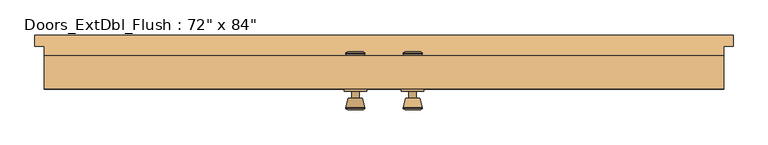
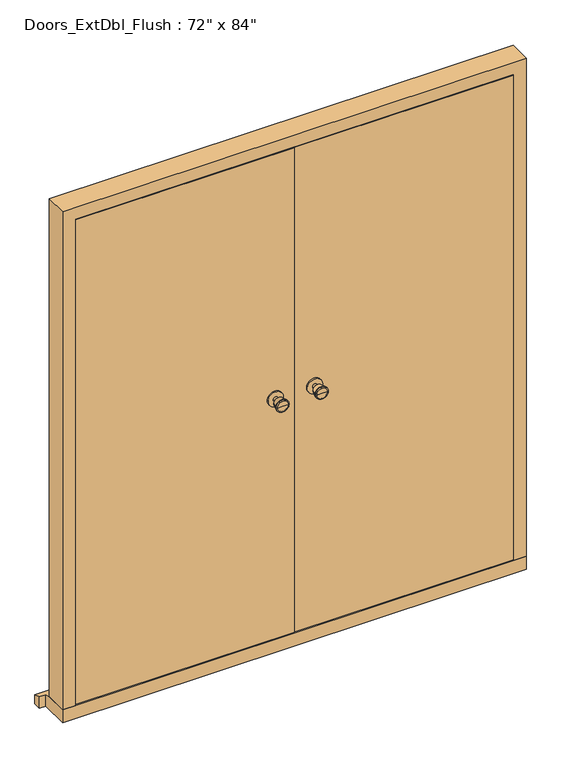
"""IFC4 building model written with IfcOpenShell, lengths in millimetres: door geometry."""

from ifc_helpers import new_model, si_unit, point, frame, frame_2d, origin, place, context, project, spatial, polyline, circle_curve, trimmed, segment, composite_curve, outline, extrude, faceted_brep, source, transform, mapped, element, save
from ifc_brep_helpers import plane_surface, cylinder_surface, revolved_surface, advanced_brep


def door_a06c315a(model_context):
    return source(origin(), model_context, "Body", "SolidModel", [
        advanced_brep(
        [(-76.5, 67.5, 1050.0), (-66.5, 67.5, 1050.0), (-86.5, 67.5, 1050.0), (-96.9758676, 18.5, 1050.0), (-56.0241324, 18.5, 1050.0), (-76.5, 18.5, 1050.0), (-101.5, 20.3278681, 1050.0), (-51.5, 20.3278681, 1050.0), (-101.5, 23.7915463, 1050.0), (-51.5, 23.7915463, 1050.0), (-95.136236, 48.5, 1050.0), (-57.863764, 48.5, 1050.0), (-86.5, 48.5, 1050.0), (-66.5, 48.5, 1050.0)],
        [
            (0, 1),
            (1, 2, circle_curve(frame((-76.5, 67.5, 1050.0), z_axis=(0.0, 1.0, 0.0), x_axis=(1.0, 0.0, 0.0)), 10.0)),
            (2, 0),
            (2, 1, circle_curve(frame((-76.5, 67.5, 1050.0), z_axis=(0.0, 1.0, 0.0), x_axis=(1.0, 0.0, 0.0)), 10.0)),
            (3, 4, circle_curve(frame((-76.5, 18.5, 1050.0), z_axis=(0.0, -1.0, 0.0), x_axis=(1.0, 0.0, 0.0)), 20.4758676)),
            (4, 5),
            (5, 3),
            (4, 3, circle_curve(frame((-76.5, 18.5, 1050.0), z_axis=(0.0, -1.0, 0.0), x_axis=(1.0, 0.0, 0.0)), 20.4758676)),
            (6, 7, circle_curve(frame((-76.5, 20.3278681, 1050.0), z_axis=(0.0, -1.0, 0.0), x_axis=(1.0, 0.0, 0.0)), 25.0)),
            (7, 4),
            (3, 6),
            (7, 6, circle_curve(frame((-76.5, 20.3278681, 1050.0), z_axis=(0.0, -1.0, 0.0), x_axis=(1.0, 0.0, 0.0)), 25.0)),
            (8, 9, circle_curve(frame((-76.5, 23.7915463, 1050.0), z_axis=(0.0, -1.0, 0.0), x_axis=(1.0, 0.0, 0.0)), 25.0)),
            (9, 7),
            (6, 8),
            (9, 8, circle_curve(frame((-76.5, 23.7915463, 1050.0), z_axis=(0.0, -1.0, 0.0), x_axis=(1.0, 0.0, 0.0)), 25.0)),
            (10, 11, circle_curve(frame((-76.5, 48.5, 1050.0), z_axis=(0.0, -1.0, 0.0), x_axis=(1.0, 0.0, 0.0)), 18.636236)),
            (11, 9),
            (8, 10),
            (11, 10, circle_curve(frame((-76.5, 48.5, 1050.0), z_axis=(0.0, -1.0, 0.0), x_axis=(1.0, 0.0, 0.0)), 18.636236)),
            (12, 13, circle_curve(frame((-76.5, 48.5, 1050.0), z_axis=(0.0, -1.0, 0.0), x_axis=(1.0, 0.0, 0.0)), 10.0)),
            (13, 11),
            (10, 12),
            (13, 12, circle_curve(frame((-76.5, 48.5, 1050.0), z_axis=(0.0, -1.0, 0.0), x_axis=(1.0, 0.0, 0.0)), 10.0)),
            (1, 13),
            (12, 2),
        ],
        [
            plane_surface(frame((-76.5, 67.5, 1050.0), z_axis=(0.0, 1.0, 0.0), x_axis=(1.0, 0.0, 0.0))),
            plane_surface(frame((-76.5, 18.5, 1050.0), z_axis=(0.0, -1.0, 0.0), x_axis=(1.0, 0.0, 0.0))),
            revolved_surface(polyline([(-56.0241324, 18.5, 1050.0), (-51.5, 20.3278681, 1050.0)]), (-76.5, 67.5, 1050.0), (0.0, 1.0, 0.0)),
            cylinder_surface(frame((-76.5, 67.5, 1050.0), z_axis=(0.0, 1.0, 0.0), x_axis=(1.0, 0.0, 0.0)), 25.0),
            revolved_surface(polyline([(-51.5, 23.7915463, 1050.0), (-57.863764, 48.5, 1050.0)]), (-76.5, 67.5, 1050.0), (0.0, 1.0, 0.0)),
            plane_surface(frame((-76.5, 48.5, 1050.0), z_axis=(0.0, 1.0, 0.0), x_axis=(1.0, 0.0, 0.0))),
            cylinder_surface(frame((-76.5, 67.5, 1050.0), z_axis=(0.0, 1.0, 0.0), x_axis=(1.0, 0.0, 0.0)), 10.0),
        ],
        [
            (0, [[1, 2, 3]]),
            (0, [[-3, 4, -1]]),
            (1, [[5, 6, 7]]),
            (1, [[8, -7, -6]]),
            (2, [[9, 10, -5, 11]]),
            (2, [[12, -11, -8, -10]]),
            (3, [[13, 14, -9, 15]]),
            (3, [[16, -15, -12, -14]]),
            (4, [[17, 18, -13, 19]]),
            (4, [[20, -19, -16, -18]]),
            (5, [[21, 22, -17, 23]]),
            (5, [[24, -23, -20, -22]]),
            (6, [[-2, 25, -21, 26]]),
            (6, [[-4, -26, -24, -25]]),
        ],
    ),
        extrude(outline(composite_curve([segment(trimmed(circle_curve(frame_2d((1050.0, -76.5)), 30.0), [point((1050.0, -46.5))], [point((1050.0, -106.5))], False, "CARTESIAN"), True, "CONTINUOUS"), segment(trimmed(circle_curve(frame_2d((1050.0, -76.5)), 30.0), [point((1050.0, -106.5))], [point((1050.0, -46.5))], False, "CARTESIAN"), True, "CONTINUOUS")], self_intersect=False)), frame((0.0, 67.5, 0.0), z_axis=(0.0, 1.0, 0.0), x_axis=(0.0, 0.0, 1.0)), (0.0, 0.0, 1.0), 6.0),
        advanced_brep(
        [(-76.5, 123.5, 1050.0), (-86.5, 123.5, 1050.0), (-66.5, 123.5, 1050.0), (-96.9758676, 172.5, 1050.0), (-76.5, 172.5, 1050.0), (-56.0241324, 172.5, 1050.0), (-101.5, 170.6721319, 1050.0), (-51.5, 170.6721319, 1050.0), (-101.5, 167.2084537, 1050.0), (-51.5, 167.2084537, 1050.0), (-95.136236, 142.5, 1050.0), (-57.863764, 142.5, 1050.0), (-86.5, 142.5, 1050.0), (-66.5, 142.5, 1050.0)],
        [
            (0, 1),
            (1, 2, circle_curve(frame((-76.5, 123.5, 1050.0), z_axis=(0.0, -1.0, 0.0), x_axis=(1.0, 0.0, 0.0)), 10.0)),
            (2, 0),
            (2, 1, circle_curve(frame((-76.5, 123.5, 1050.0), z_axis=(0.0, -1.0, 0.0), x_axis=(1.0, 0.0, 0.0)), 10.0)),
            (3, 4),
            (4, 5),
            (5, 3, circle_curve(frame((-76.5, 172.5, 1050.0), z_axis=(0.0, 1.0, 0.0), x_axis=(1.0, 0.0, 0.0)), 20.4758676)),
            (3, 5, circle_curve(frame((-76.5, 172.5, 1050.0), z_axis=(0.0, 1.0, 0.0), x_axis=(1.0, 0.0, 0.0)), 20.4758676)),
            (6, 3),
            (5, 7),
            (7, 6, circle_curve(frame((-76.5, 170.6721319, 1050.0), z_axis=(0.0, 1.0, 0.0), x_axis=(1.0, 0.0, 0.0)), 25.0)),
            (6, 7, circle_curve(frame((-76.5, 170.6721319, 1050.0), z_axis=(0.0, 1.0, 0.0), x_axis=(1.0, 0.0, 0.0)), 25.0)),
            (8, 6),
            (7, 9),
            (9, 8, circle_curve(frame((-76.5, 167.2084537, 1050.0), z_axis=(0.0, 1.0, 0.0), x_axis=(1.0, 0.0, 0.0)), 25.0)),
            (8, 9, circle_curve(frame((-76.5, 167.2084537, 1050.0), z_axis=(0.0, 1.0, 0.0), x_axis=(1.0, 0.0, 0.0)), 25.0)),
            (10, 8),
            (9, 11),
            (11, 10, circle_curve(frame((-76.5, 142.5, 1050.0), z_axis=(0.0, 1.0, 0.0), x_axis=(1.0, 0.0, 0.0)), 18.636236)),
            (10, 11, circle_curve(frame((-76.5, 142.5, 1050.0), z_axis=(0.0, 1.0, 0.0), x_axis=(1.0, 0.0, 0.0)), 18.636236)),
            (12, 10),
            (11, 13),
            (13, 12, circle_curve(frame((-76.5, 142.5, 1050.0), z_axis=(0.0, 1.0, 0.0), x_axis=(1.0, 0.0, 0.0)), 10.0)),
            (12, 13, circle_curve(frame((-76.5, 142.5, 1050.0), z_axis=(0.0, 1.0, 0.0), x_axis=(1.0, 0.0, 0.0)), 10.0)),
            (1, 12),
            (13, 2),
        ],
        [
            plane_surface(frame((-76.5, 123.5, 1050.0), z_axis=(0.0, -1.0, 0.0), x_axis=(1.0, 0.0, 0.0))),
            plane_surface(frame((-76.5, 172.5, 1050.0), z_axis=(0.0, 1.0, 0.0), x_axis=(1.0, 0.0, 0.0))),
            revolved_surface(polyline([(-56.0241324, 172.5, 1050.0), (-51.5, 170.6721319, 1050.0)]), (-76.5, 123.5, 1050.0), (0.0, -1.0, 0.0)),
            cylinder_surface(frame((-76.5, 123.5, 1050.0), z_axis=(0.0, -1.0, 0.0), x_axis=(1.0, 0.0, 0.0)), 25.0),
            revolved_surface(polyline([(-51.5, 167.2084537, 1050.0), (-57.863764, 142.5, 1050.0)]), (-76.5, 123.5, 1050.0), (0.0, -1.0, 0.0)),
            plane_surface(frame((-76.5, 142.5, 1050.0), z_axis=(0.0, -1.0, 0.0), x_axis=(1.0, 0.0, 0.0))),
            cylinder_surface(frame((-76.5, 123.5, 1050.0), z_axis=(0.0, -1.0, 0.0), x_axis=(1.0, 0.0, 0.0)), 10.0),
        ],
        [
            (0, [[1, 2, 3]]),
            (0, [[-3, 4, -1]]),
            (1, [[5, 6, 7]]),
            (1, [[-6, -5, 8]]),
            (2, [[9, -7, 10, 11]]),
            (2, [[-10, -8, -9, 12]]),
            (3, [[13, -11, 14, 15]]),
            (3, [[-14, -12, -13, 16]]),
            (4, [[17, -15, 18, 19]]),
            (4, [[-18, -16, -17, 20]]),
            (5, [[21, -19, 22, 23]]),
            (5, [[-22, -20, -21, 24]]),
            (6, [[25, -23, 26, -2]]),
            (6, [[-26, -24, -25, -4]]),
        ],
    ),
        extrude(outline(composite_curve([segment(trimmed(circle_curve(frame_2d((1050.0, -76.5)), 30.0), [point((1050.0, -46.5))], [point((1050.0, -106.5))], False, "CARTESIAN"), True, "CONTINUOUS"), segment(trimmed(circle_curve(frame_2d((1050.0, -76.5)), 30.0), [point((1050.0, -106.5))], [point((1050.0, -46.5))], False, "CARTESIAN"), True, "CONTINUOUS")], self_intersect=False)), frame((0.0, 117.5, 0.0), z_axis=(0.0, 1.0, 0.0), x_axis=(0.0, 0.0, 1.0)), (0.0, 0.0, 1.0), 6.0),
        advanced_brep(
        [(76.5, 67.5, 1050.0), (86.5, 67.5, 1050.0), (66.5, 67.5, 1050.0), (96.9758676, 18.5, 1050.0), (76.5, 18.5, 1050.0), (56.0241324, 18.5, 1050.0), (101.5, 20.3278681, 1050.0), (51.5, 20.3278681, 1050.0), (101.5, 23.7915463, 1050.0), (51.5, 23.7915463, 1050.0), (95.136236, 48.5, 1050.0), (57.863764, 48.5, 1050.0), (86.5, 48.5, 1050.0), (66.5, 48.5, 1050.0)],
        [
            (0, 1),
            (1, 2, circle_curve(frame((76.5, 67.5, 1050.0), z_axis=(0.0, 1.0, 0.0), x_axis=(-1.0, 0.0, 0.0)), 10.0)),
            (2, 0),
            (2, 1, circle_curve(frame((76.5, 67.5, 1050.0), z_axis=(0.0, 1.0, 0.0), x_axis=(-1.0, 0.0, 0.0)), 10.0)),
            (3, 4),
            (4, 5),
            (5, 3, circle_curve(frame((76.5, 18.5, 1050.0), z_axis=(0.0, -1.0, 0.0), x_axis=(-1.0, 0.0, 0.0)), 20.4758676)),
            (3, 5, circle_curve(frame((76.5, 18.5, 1050.0), z_axis=(0.0, -1.0, 0.0), x_axis=(-1.0, 0.0, 0.0)), 20.4758676)),
            (6, 3),
            (5, 7),
            (7, 6, circle_curve(frame((76.5, 20.3278681, 1050.0), z_axis=(0.0, -1.0, 0.0), x_axis=(-1.0, 0.0, 0.0)), 25.0)),
            (6, 7, circle_curve(frame((76.5, 20.3278681, 1050.0), z_axis=(0.0, -1.0, 0.0), x_axis=(-1.0, 0.0, 0.0)), 25.0)),
            (8, 6),
            (7, 9),
            (9, 8, circle_curve(frame((76.5, 23.7915463, 1050.0), z_axis=(0.0, -1.0, 0.0), x_axis=(-1.0, 0.0, 0.0)), 25.0)),
            (8, 9, circle_curve(frame((76.5, 23.7915463, 1050.0), z_axis=(0.0, -1.0, 0.0), x_axis=(-1.0, 0.0, 0.0)), 25.0)),
            (10, 8),
            (9, 11),
            (11, 10, circle_curve(frame((76.5, 48.5, 1050.0), z_axis=(0.0, -1.0, 0.0), x_axis=(-1.0, 0.0, 0.0)), 18.636236)),
            (10, 11, circle_curve(frame((76.5, 48.5, 1050.0), z_axis=(0.0, -1.0, 0.0), x_axis=(-1.0, 0.0, 0.0)), 18.636236)),
            (12, 10),
            (11, 13),
            (13, 12, circle_curve(frame((76.5, 48.5, 1050.0), z_axis=(0.0, -1.0, 0.0), x_axis=(-1.0, 0.0, 0.0)), 10.0)),
            (12, 13, circle_curve(frame((76.5, 48.5, 1050.0), z_axis=(0.0, -1.0, 0.0), x_axis=(-1.0, 0.0, 0.0)), 10.0)),
            (1, 12),
            (13, 2),
        ],
        [
            plane_surface(frame((76.5, 67.5, 1050.0), z_axis=(0.0, 1.0, 0.0), x_axis=(-1.0, 0.0, 0.0))),
            plane_surface(frame((76.5, 18.5, 1050.0), z_axis=(0.0, -1.0, 0.0), x_axis=(-1.0, 0.0, 0.0))),
            revolved_surface(polyline([(56.0241324, 18.5, 1050.0), (51.5, 20.3278681, 1050.0)]), (76.5, 67.5, 1050.0), (0.0, 1.0, 0.0)),
            cylinder_surface(frame((76.5, 67.5, 1050.0), z_axis=(0.0, 1.0, 0.0), x_axis=(-1.0, 0.0, 0.0)), 25.0),
            revolved_surface(polyline([(51.5, 23.7915463, 1050.0), (57.863764, 48.5, 1050.0)]), (76.5, 67.5, 1050.0), (0.0, 1.0, 0.0)),
            plane_surface(frame((76.5, 48.5, 1050.0), z_axis=(0.0, 1.0, 0.0), x_axis=(-1.0, 0.0, 0.0))),
            cylinder_surface(frame((76.5, 67.5, 1050.0), z_axis=(0.0, 1.0, 0.0), x_axis=(-1.0, 0.0, 0.0)), 10.0),
        ],
        [
            (0, [[1, 2, 3]]),
            (0, [[-3, 4, -1]]),
            (1, [[5, 6, 7]]),
            (1, [[-6, -5, 8]]),
            (2, [[9, -7, 10, 11]]),
            (2, [[-10, -8, -9, 12]]),
            (3, [[13, -11, 14, 15]]),
            (3, [[-14, -12, -13, 16]]),
            (4, [[17, -15, 18, 19]]),
            (4, [[-18, -16, -17, 20]]),
            (5, [[21, -19, 22, 23]]),
            (5, [[-22, -20, -21, 24]]),
            (6, [[25, -23, 26, -2]]),
            (6, [[-26, -24, -25, -4]]),
        ],
    ),
        extrude(outline(composite_curve([segment(trimmed(circle_curve(frame_2d((1050.0, 76.5)), 30.0), [point((1050.0, 46.5))], [point((1050.0, 106.5))], False, "CARTESIAN"), True, "CONTINUOUS"), segment(trimmed(circle_curve(frame_2d((1050.0, 76.5)), 30.0), [point((1050.0, 106.5))], [point((1050.0, 46.5))], False, "CARTESIAN"), True, "CONTINUOUS")], self_intersect=False)), frame((0.0, 67.5, 0.0), z_axis=(0.0, 1.0, 0.0), x_axis=(0.0, 0.0, 1.0)), (0.0, 0.0, 1.0), 6.0),
        advanced_brep(
        [(76.5, 123.5, 1050.0), (66.5, 123.5, 1050.0), (86.5, 123.5, 1050.0), (96.9758676, 172.5, 1050.0), (56.0241324, 172.5, 1050.0), (76.5, 172.5, 1050.0), (101.5, 170.6721319, 1050.0), (51.5, 170.6721319, 1050.0), (101.5, 167.2084537, 1050.0), (51.5, 167.2084537, 1050.0), (95.136236, 142.5, 1050.0), (57.863764, 142.5, 1050.0), (86.5, 142.5, 1050.0), (66.5, 142.5, 1050.0)],
        [
            (0, 1),
            (1, 2, circle_curve(frame((76.5, 123.5, 1050.0), z_axis=(0.0, -1.0, 0.0), x_axis=(-1.0, 0.0, 0.0)), 10.0)),
            (2, 0),
            (2, 1, circle_curve(frame((76.5, 123.5, 1050.0), z_axis=(0.0, -1.0, 0.0), x_axis=(-1.0, 0.0, 0.0)), 10.0)),
            (3, 4, circle_curve(frame((76.5, 172.5, 1050.0), z_axis=(0.0, 1.0, 0.0), x_axis=(-1.0, 0.0, 0.0)), 20.4758676)),
            (4, 5),
            (5, 3),
            (4, 3, circle_curve(frame((76.5, 172.5, 1050.0), z_axis=(0.0, 1.0, 0.0), x_axis=(-1.0, 0.0, 0.0)), 20.4758676)),
            (6, 7, circle_curve(frame((76.5, 170.6721319, 1050.0), z_axis=(0.0, 1.0, 0.0), x_axis=(-1.0, 0.0, 0.0)), 25.0)),
            (7, 4),
            (3, 6),
            (7, 6, circle_curve(frame((76.5, 170.6721319, 1050.0), z_axis=(0.0, 1.0, 0.0), x_axis=(-1.0, 0.0, 0.0)), 25.0)),
            (8, 9, circle_curve(frame((76.5, 167.2084537, 1050.0), z_axis=(0.0, 1.0, 0.0), x_axis=(-1.0, 0.0, 0.0)), 25.0)),
            (9, 7),
            (6, 8),
            (9, 8, circle_curve(frame((76.5, 167.2084537, 1050.0), z_axis=(0.0, 1.0, 0.0), x_axis=(-1.0, 0.0, 0.0)), 25.0)),
            (10, 11, circle_curve(frame((76.5, 142.5, 1050.0), z_axis=(0.0, 1.0, 0.0), x_axis=(-1.0, 0.0, 0.0)), 18.636236)),
            (11, 9),
            (8, 10),
            (11, 10, circle_curve(frame((76.5, 142.5, 1050.0), z_axis=(0.0, 1.0, 0.0), x_axis=(-1.0, 0.0, 0.0)), 18.636236)),
            (12, 13, circle_curve(frame((76.5, 142.5, 1050.0), z_axis=(0.0, 1.0, 0.0), x_axis=(-1.0, 0.0, 0.0)), 10.0)),
            (13, 11),
            (10, 12),
            (13, 12, circle_curve(frame((76.5, 142.5, 1050.0), z_axis=(0.0, 1.0, 0.0), x_axis=(-1.0, 0.0, 0.0)), 10.0)),
            (1, 13),
            (12, 2),
        ],
        [
            plane_surface(frame((76.5, 123.5, 1050.0), z_axis=(0.0, -1.0, 0.0), x_axis=(-1.0, 0.0, 0.0))),
            plane_surface(frame((76.5, 172.5, 1050.0), z_axis=(0.0, 1.0, 0.0), x_axis=(-1.0, 0.0, 0.0))),
            revolved_surface(polyline([(56.0241324, 172.5, 1050.0), (51.5, 170.6721319, 1050.0)]), (76.5, 123.5, 1050.0), (0.0, -1.0, 0.0)),
            cylinder_surface(frame((76.5, 123.5, 1050.0), z_axis=(0.0, -1.0, 0.0), x_axis=(-1.0, 0.0, 0.0)), 25.0),
            revolved_surface(polyline([(51.5, 167.2084537, 1050.0), (57.863764, 142.5, 1050.0)]), (76.5, 123.5, 1050.0), (0.0, -1.0, 0.0)),
            plane_surface(frame((76.5, 142.5, 1050.0), z_axis=(0.0, -1.0, 0.0), x_axis=(-1.0, 0.0, 0.0))),
            cylinder_surface(frame((76.5, 123.5, 1050.0), z_axis=(0.0, -1.0, 0.0), x_axis=(-1.0, 0.0, 0.0)), 10.0),
        ],
        [
            (0, [[1, 2, 3]]),
            (0, [[-3, 4, -1]]),
            (1, [[5, 6, 7]]),
            (1, [[8, -7, -6]]),
            (2, [[9, 10, -5, 11]]),
            (2, [[12, -11, -8, -10]]),
            (3, [[13, 14, -9, 15]]),
            (3, [[16, -15, -12, -14]]),
            (4, [[17, 18, -13, 19]]),
            (4, [[20, -19, -16, -18]]),
            (5, [[21, 22, -17, 23]]),
            (5, [[24, -23, -20, -22]]),
            (6, [[-2, 25, -21, 26]]),
            (6, [[-4, -26, -24, -25]]),
        ],
    ),
        extrude(outline(composite_curve([segment(trimmed(circle_curve(frame_2d((1050.0, 76.5)), 30.0), [point((1050.0, 46.5))], [point((1050.0, 106.5))], False, "CARTESIAN"), True, "CONTINUOUS"), segment(trimmed(circle_curve(frame_2d((1050.0, 76.5)), 30.0), [point((1050.0, 106.5))], [point((1050.0, 46.5))], False, "CARTESIAN"), True, "CONTINUOUS")], self_intersect=False)), frame((0.0, 117.5, 0.0), z_axis=(0.0, 1.0, 0.0), x_axis=(0.0, 0.0, 1.0)), (0.0, 0.0, 1.0), 6.0),
        faceted_brep([(834.5, 162.5, 54.5), (905.0, 162.5, 54.5), (905.0, 73.5, 54.5), (856.5, 73.5, 54.5), (856.5, 120.5, 54.5), (834.5, 120.5, 54.5), (834.5, 162.5, 2039.5), (-834.5, 162.5, 2039.5), (-834.5, 162.5, 54.5), (-905.0, 162.5, 54.5), (-905.0, 162.5, 2110.0), (905.0, 162.5, 2110.0), (905.0, 73.5, 2110.0), (-905.0, 73.5, 2110.0), (-905.0, 73.5, 54.5), (-856.5, 73.5, 54.5), (-856.5, 73.5, 2061.5), (856.5, 73.5, 2061.5), (856.5, 120.5, 2061.5), (-856.5, 120.5, 2061.5), (-856.5, 120.5, 54.5), (-834.5, 120.5, 54.5), (-834.5, 120.5, 2039.5), (834.5, 120.5, 2039.5)], [[[0, 1, 2, 3, 4, 5]], [[1, 0, 6, 7, 8, 9, 10, 11]], [[2, 1, 11, 12]], [[3, 2, 12, 13, 14, 15, 16, 17]], [[4, 3, 17, 18]], [[5, 4, 18, 19, 20, 21, 22, 23]], [[0, 5, 23, 6]], [[12, 11, 10, 13]], [[18, 17, 16, 19]], [[6, 23, 22, 7]], [[8, 21, 20, 15, 14, 9]], [[13, 10, 9, 14]], [[19, 16, 15, 20]], [[7, 22, 21, 8]]]),
        faceted_brep([(930.0, 217.5, 0.0), (930.0, 217.5, 38.5947221), (930.0, 187.5, 47.2703282), (930.0, 187.5, 0.0), (-930.0, 217.5, 38.5947221), (-930.0, 217.5, 0.0), (-930.0, 187.5, 0.0), (-930.0, 187.5, 47.2703282), (905.0, 187.5, 0.0), (905.0, 73.5, 0.0), (-905.0, 73.5, 0.0), (-905.0, 187.5, 0.0), (-905.0, 187.5, 47.2703282), (-905.0, 162.5, 54.5), (905.0, 162.5, 54.5), (905.0, 187.5, 47.2703282), (-905.0, 73.5, 54.5), (905.0, 73.5, 54.5)], [[[0, 1, 2, 3]], [[4, 5, 6, 7]], [[5, 0, 3, 8, 9, 10, 11, 6]], [[1, 0, 5, 4]], [[1, 4, 7, 12, 13, 14, 15, 2]], [[13, 16, 17, 14]], [[16, 10, 9, 17]], [[12, 11, 10, 16, 13]], [[11, 12, 7, 6]], [[8, 15, 14, 17, 9]], [[15, 8, 3, 2]]]),
        extrude(outline(polyline([(853.5, 73.5), (1.5, 73.5), (1.5, 117.5), (853.5, 117.5), (853.5, 73.5)])), frame((0.0, 0.0, 58.5), z_axis=(0.0, 0.0, 1.0), x_axis=(1.0, 0.0, 0.0)), (0.0, 0.0, 1.0), 2000.0),
        extrude(outline(polyline([(-1.5, 73.5), (-853.5, 73.5), (-853.5, 117.5), (-1.5, 117.5), (-1.5, 73.5)])), frame((0.0, 0.0, 58.5), z_axis=(0.0, 0.0, 1.0), x_axis=(1.0, 0.0, 0.0)), (0.0, 0.0, 1.0), 2000.0),
    ])


if __name__ == "__main__":
    model = new_model("IFC4")
    model_context = context("Model", 3, world=origin())
    ifc_project = project(units=[si_unit("LENGTHUNIT", "METRE", prefix="MILLI")], contexts=[model_context])
    site = spatial("IfcSite", under=ifc_project)
    building = spatial("IfcBuilding", under=site)
    placement = place(None, origin())
    door_shape = door_a06c315a(model_context)
    element("IfcDoor", 1, ObjectType="Doors_ExtDbl_Flush : 72\" x 84\"", at=placement, inside=building, context=model_context, shape_type="MappedRepresentation", body=[
        mapped(door_shape, transform((0.0, 0.0, 0.0), x_axis=(1.0, 0.0, 0.0), y_axis=(0.0, 1.0, 0.0), z_axis=(0.0, 0.0, 1.0))),
    ])
    save(model, "model.ifc")
